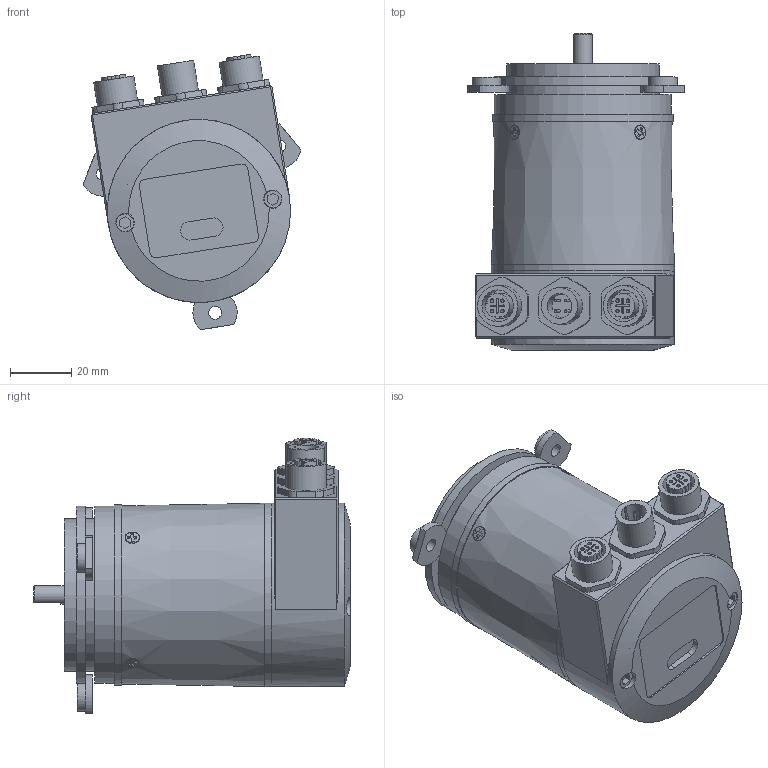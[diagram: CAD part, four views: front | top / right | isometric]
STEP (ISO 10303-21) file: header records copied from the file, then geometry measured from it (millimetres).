
FILE_DESCRIPTION(/* description */ ('Unknown'),/* implementation_level */ '2;1');
FILE_NAME(/* name */ 'AAM_58_BR_PFN-ETC',/* time_stamp */ '2019-12-09T11:07:32+01:00',/* author */ ('Unknown'),/* organization */ ('Unknown'),/* preprocessor_version */ 'ST-DEVELOPER v16.7',/* originating_system */ 'DEX',/* authorisation */ $);
FILE_SCHEMA (('AUTOMOTIVE_DESIGN {1 0 10303 214 3 1 1}'));
Length unit declared in the file: millimetre
Products named in the file (1): AAM_58_BR_PFN-ETC
Bounding box: 71.27 x 103.8 x 90.17 mm (x, y, z)
Volume: 116549 mm3; surface area: 72766.9 mm2
Topology: 21 solids, 21 shells, 619 faces, 1471 edges, 972 vertices
Faces by surface type: plane 329, cylinder 245, cone 37, bspline 8
Full cylindrical faces by diameter (mm): 0.8 x4, 1.2 x8, 1.6 x2, 2.05 x16, 2.5 x6, 2.532 x4, 3 x2, 3.26 x4, 3.5 x5, 4 x6, 4.2 x3, 5.7 x2, 6 x3, 8 x2, 9 x1, 9.5 x3, 10 x5, 10.5 x2, 12 x8, 13.125 x1, 13.3 x2, 13.391 x1, 14 x3, 20 x3, 22 x2, 22.897 x1, 22.952 x1, 23 x3, 26 x3, 50 x2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
Entity records: 17626 total; most frequent: CARTESIAN_POINT 3508, DIRECTION 2964, ORIENTED_EDGE 2538, EDGE_CURVE 1269, AXIS2_PLACEMENT_3D 1137, VERTEX_POINT 943, FACE_BOUND 930, EDGE_LOOP 914
